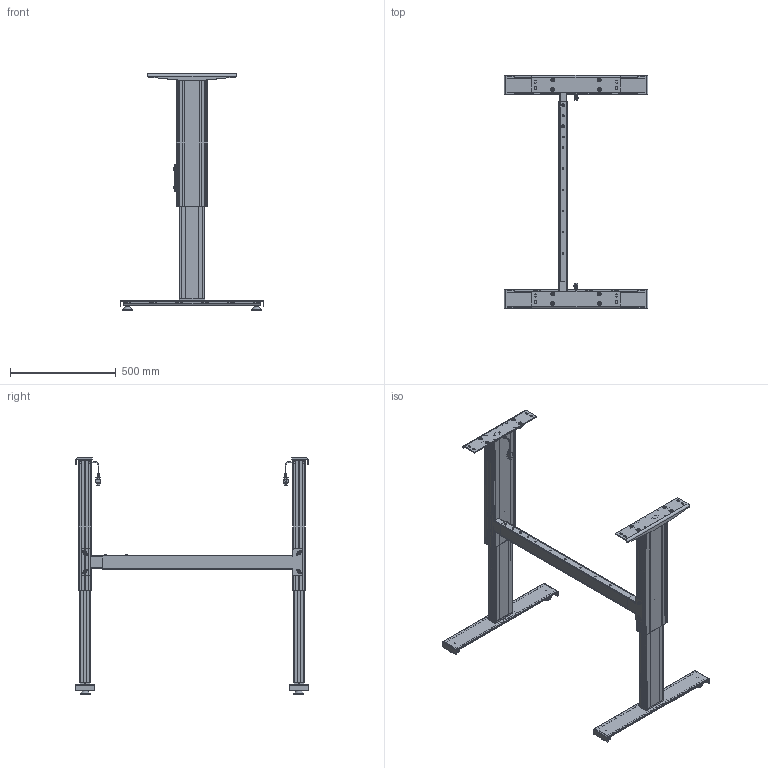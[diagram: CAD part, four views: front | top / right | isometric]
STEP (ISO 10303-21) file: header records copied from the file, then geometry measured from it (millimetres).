
FILE_DESCRIPTION(/* description */ ('Unknown'),/* implementation_level */ '2;1');
FILE_NAME(/* name */ 'Untergestell SC 2942 900-1550 XX XX_00-Ausgefahren',/* time_stamp */ '2025-08-25T17:23:36+02:00',/* author */ ('Unknown'),/* organization */ ('Unknown'),/* preprocessor_version */ 'ST-DEVELOPER v20',/* originating_system */ 'Solid Edge',/* authorisation */ 'Unknown');
FILE_SCHEMA (('AUTOMOTIVE_DESIGN {1 0 10303 214 3 1 1}'));
Length unit declared in the file: millimetre
Products named in the file (32): Untergestell SC 2942 900-1550 XX XX; 922.00001_oa_0; 126.00166; 142.00166; 124.00129; Kabel Molex_gebogen; 119.00367; 124.00241_oa_1; 119.00368; 119.00366; 126.00167; 115.00165; 127.00223; 142.00279; 142.00068; 127.00545; 127.00548; 113.00006; 113.00006-ohne Mutter; Mutter M10; 127.00635; 060339~2; 060340~3; Sechskantmutter M6 DIN 934; Scheibe Ø6,4 DIN 125; Halbrundkopfschraube mit Innensechskant M8x12 ISO 7380-1; Scheibe Ø8,4 DIN 125; Nutenstein M8_montiert; Halbrundkopfschraube mit Innensechskant und Bund M6x16 ISO 7380-2; 922.00001_oa_2; 142.00159; 124.00241_oa_3
Assembly tree (76 placements, depth 4):
  Untergestell SC 2942 900-1550 XX XX
    922.00001_oa_0
      126.00166
      142.00166  x4
      124.00129
      Kabel Molex_gebogen
      119.00367  x2
      124.00241_oa_1
      119.00368  x2
      119.00366
      126.00167
    115.00165  x2
      127.00223
      142.00279
      142.00068
    127.00545  x2
      127.00548
      113.00006
        113.00006-ohne Mutter
        Mutter M10
    127.00635
      060339~2
      060340~3
      Sechskantmutter M6 DIN 934  x4
      Scheibe Ø6,4 DIN 125  x4
      Halbrundkopfschraube mit Innensechskant M8x12 ISO 7380-1  x4
      Scheibe Ø8,4 DIN 125  x4
      Nutenstein M8_montiert  x4
      Halbrundkopfschraube mit Innensechskant und Bund M6x16 ISO 7380-2  x4
    922.00001_oa_2
      126.00166
      142.00166  x4
      142.00159
      124.00129
      Kabel Molex_gebogen
      119.00367  x2
      124.00241_oa_3
      119.00368  x2
      119.00366
      126.00167
Bounding box: 680 x 1100 x 1115 mm (x, y, z)
Volume: 6201086.1 mm3; surface area: 3742960.3 mm2
Topology: 81 solids, 81 shells, 3307 faces, 8559 edges, 5560 vertices
Faces by surface type: plane 1746, cylinder 1012, cone 231, torus 194, bspline 120, sphere 4
Full cylindrical faces by diameter (mm): 4 x1, 4.5 x6, 5 x12, 5.3 x4, 5.5 x8, 6 x10, 6.3 x8, 6.4 x4, 6.647 x12, 7 x17, 7.5 x8, 8 x16, 8.376 x14, 8.5 x20, 8.7 x12, 9 x10, 9.5 x4, 10 x6, 12 x4, 13.6 x4, 14 x12, 15 x4, 16.8 x4, 19 x4, 24.5 x2, 25 x4, 29 x4, 35 x4, 39 x4, 47 x4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
Entity records: 46860 total; most frequent: CARTESIAN_POINT 9441, DIRECTION 6413, ORIENTED_EDGE 6250, EDGE_CURVE 3125, AXIS2_PLACEMENT_3D 2274, VERTEX_POINT 2120, LINE 1865, VECTOR 1865
